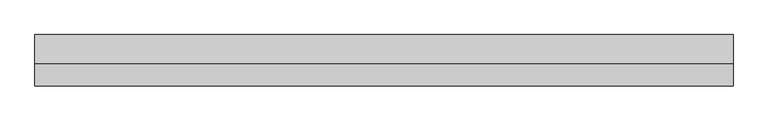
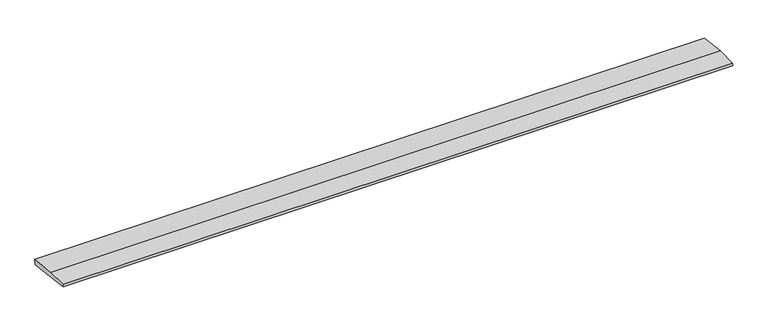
"""IFC4 building model written with IfcOpenShell, lengths in millimetres: beam geometry, weatherboad : weatherboad."""

import ifcopenshell
import ifcopenshell.guid

model = None  # the IFC model being written
_history = None  # IfcOwnerHistory: only IFC2X3 demands one
_inside = {}  # id of a spatial element -> (the spatial element, [elements in it])
_under = {}  # id of a project, library or spatial element -> (it, [spatial elements below it])
_declared = {}  # id of a project -> (the project, [libraries it declares])
_typed = {}  # id of a type object -> (the type object, [elements of that type])
_made_of = {}  # id of a material, layer set ... -> (it, [elements and type objects made of it])


def new_model(schema):
    """Start an empty IFC model of exactly this schema.

    Asked for "IFC4X3", IfcOpenShell would pick the latest addendum, in which some entities
    have other attributes; the version numbers below select the first issue.
    IFC2X3 requires an IfcOwnerHistory on every rooted entity: one is made here for all.
    """
    global model, _history
    if schema == "IFC4X3":
        model = ifcopenshell.file(schema_version=(4, 3, 0, 0))
    else:
        model = ifcopenshell.file(schema=schema)
    _inside.clear()
    _under.clear()
    _declared.clear()
    _typed.clear()
    _made_of.clear()
    _history = None
    if model.schema == "IFC2X3":
        org = make("IfcOrganization", Name="unknown")
        user = make(
            "IfcPersonAndOrganization",
            ThePerson=make("IfcPerson", FamilyName="unknown"),
            TheOrganization=org,
        )
        app = make(
            "IfcApplication",
            ApplicationDeveloper=org,
            Version="unknown",
            ApplicationFullName="unknown",
            ApplicationIdentifier="unknown",
        )
        _history = make(
            "IfcOwnerHistory",
            OwningUser=user,
            OwningApplication=app,
            ChangeAction="ADDED",
            CreationDate=0,
        )
    return model


def make(cls, **values):
    """One entity of the class cls with the attributes given. An attribute that is None is left unset."""
    return model.create_entity(
        cls, **{name: value for name, value in values.items() if value is not None}
    )


def rooted(cls, **values):
    """An entity with a GlobalId (a new one), such as an element, a storey or a relation."""
    return make(cls, GlobalId=ifcopenshell.guid.new(), OwnerHistory=_history, **values)


def si_unit(unit_type, name, prefix=None):
    """IfcSIUnit, for example si_unit("LENGTHUNIT", "METRE", prefix="MILLI")."""
    return make("IfcSIUnit", UnitType=unit_type, Prefix=prefix, Name=name)


def assignment(units):
    """IfcUnitAssignment: the units of a project."""
    return None if units is None else make("IfcUnitAssignment", Units=units)


def point(xyz):
    """IfcCartesianPoint."""
    return None if xyz is None else make("IfcCartesianPoint", Coordinates=xyz)


def direction(xyz):
    """IfcDirection."""
    return None if xyz is None else make("IfcDirection", DirectionRatios=xyz)


def frame(location, z_axis=None, x_axis=None):
    """IfcAxis2Placement3D, a coordinate frame: its origin and axes. An axis left out is left unset."""
    return make(
        "IfcAxis2Placement3D",
        Location=point(location),
        Axis=direction(z_axis),
        RefDirection=direction(x_axis),
    )


def origin():
    """The frame at (0, 0, 0) with its axes left unset."""
    return frame((0.0, 0.0, 0.0))


def place(relative_to, where):
    """IfcLocalPlacement: puts the frame where relative to a parent placement (None: the world)."""
    return make(
        "IfcLocalPlacement", PlacementRelTo=relative_to, RelativePlacement=where
    )


def context(
    kind, dimensions, precision=None, world=None, true_north=None, identifier=None
):
    """IfcGeometricRepresentationContext, for example the 3D "Model" context."""
    return make(
        "IfcGeometricRepresentationContext",
        ContextIdentifier=identifier,
        ContextType=kind,
        CoordinateSpaceDimension=dimensions,
        Precision=precision,
        WorldCoordinateSystem=world,
        TrueNorth=true_north,
    )


def project(units=None, contexts=None):
    """IfcProject with its units and contexts."""
    return rooted(
        "IfcProject",
        Name="project",
        RepresentationContexts=contexts,
        UnitsInContext=assignment(units),
    )


def spatial(cls, under=None, at=None, **own):
    """A site, building, storey or space (cls), placed at a placement, below another one or the project."""
    s = rooted(cls, ObjectPlacement=at, **own)
    if under is not None:
        _under.setdefault(under.id(), (under, []))[1].append(s)
    return s


def polyline(points):
    """IfcPolyline through the points."""
    return make("IfcPolyline", Points=[point(p) for p in points])


def outline(outer, holes=None, kind="AREA"):
    """IfcArbitraryClosedProfileDef: a profile drawn as a closed curve; with holes, ...WithVoids."""
    if holes is None:
        return make("IfcArbitraryClosedProfileDef", ProfileType=kind, OuterCurve=outer)
    return make(
        "IfcArbitraryProfileDefWithVoids",
        ProfileType=kind,
        OuterCurve=outer,
        InnerCurves=holes,
    )


def extrude(swept, where, along, depth):
    """IfcExtrudedAreaSolid: the profile swept, set in the frame where, extruded along a direction by depth."""
    return make(
        "IfcExtrudedAreaSolid",
        SweptArea=swept,
        Position=where,
        ExtrudedDirection=direction(along),
        Depth=depth,
    )


def shape(context_of_items, identifier, shape_type, items):
    """IfcShapeRepresentation: the items that make up one representation, for example the "Body"."""
    return make(
        "IfcShapeRepresentation",
        ContextOfItems=context_of_items,
        RepresentationIdentifier=identifier,
        RepresentationType=shape_type,
        Items=items,
    )


def source(mapping_origin, context_of_items, identifier, shape_type, items):
    """IfcRepresentationMap: a shape defined once, which mapped items show again and again."""
    return make(
        "IfcRepresentationMap",
        MappingOrigin=mapping_origin,
        MappedRepresentation=shape(context_of_items, identifier, shape_type, items),
    )


def transform(
    local_origin,
    x_axis=None,
    y_axis=None,
    z_axis=None,
    scale=None,
    scale2=None,
    scale3=None,
    uniform=True,
):
    """IfcCartesianTransformationOperator3D, or its non-uniform kind. x_axis, y_axis, z_axis: its Axis1, 2, 3."""
    if uniform:
        return make(
            "IfcCartesianTransformationOperator3D",
            Axis1=direction(x_axis),
            Axis2=direction(y_axis),
            LocalOrigin=point(local_origin),
            Scale=scale,
            Axis3=direction(z_axis),
        )
    return make(
        "IfcCartesianTransformationOperator3DnonUniform",
        Axis1=direction(x_axis),
        Axis2=direction(y_axis),
        LocalOrigin=point(local_origin),
        Scale=scale,
        Axis3=direction(z_axis),
        Scale2=scale2,
        Scale3=scale3,
    )


def mapped(mapping_source, mapping_target):
    """IfcMappedItem: shows the shape of a source again, moved by a transform."""
    return make(
        "IfcMappedItem", MappingSource=mapping_source, MappingTarget=mapping_target
    )


def made_of(thing, what):
    """Note that an element or type object is made of a material, layer set ...; save() writes the relation."""
    if what is not None:
        _made_of.setdefault(what.id(), (what, []))[1].append(thing)
    return thing


def element(
    cls,
    number,
    at=None,
    inside=None,
    cuts=None,
    type_object=None,
    material=None,
    context=None,
    identifier="Body",
    shape_type=None,
    held_by="IfcProductDefinitionShape",
    body=None,
    shapes=None,
    **own,
):
    """One element of the class cls, such as IfcWall. Its Tag is "e" and its number.

    at: its placement. inside: the storey or other place that contains it. cuts: it is an
    opening in that element (IfcRelVoidsElement). A single representation is given by context,
    identifier, shape_type and body (its items); several are given by shapes. held_by: the class
    of the entity that holds the representations. save() writes the other relations.
    """
    e = rooted(cls, Tag="e%d" % number, ObjectPlacement=at, **own)
    if body is not None:
        shapes = [shape(context, identifier, shape_type, body)]
    if shapes is not None:
        e.Representation = make(held_by, Representations=shapes)
    if inside is not None:
        _inside.setdefault(inside.id(), (inside, []))[1].append(e)
    if cuts is not None:
        rooted(
            "IfcRelVoidsElement", RelatingBuildingElement=cuts, RelatedOpeningElement=e
        )
    if type_object is not None:
        _typed.setdefault(type_object.id(), (type_object, []))[1].append(e)
    return made_of(e, material)


def aggregate(whole, parts):
    """IfcRelAggregates: a whole, such as a stair, and the parts it consists of."""
    return rooted("IfcRelAggregates", RelatingObject=whole, RelatedObjects=parts)


def save(model, path):
    """Write the relations noted so far, then the file.

    IfcRelAggregates (storeys below a building ...), IfcRelContainedInSpatialStructure (elements
    in a storey), IfcRelDefinesByType, IfcRelAssociatesMaterial and IfcRelDeclares: one each for
    every whole, place, type object, material and project.
    """
    for whole, parts in _under.values():
        aggregate(whole, parts)
    for where, things in _inside.values():
        rooted(
            "IfcRelContainedInSpatialStructure",
            RelatedElements=things,
            RelatingStructure=where,
        )
    for kind, things in _typed.values():
        rooted("IfcRelDefinesByType", RelatedObjects=things, RelatingType=kind)
    for what, things in _made_of.values():
        rooted("IfcRelAssociatesMaterial", RelatedObjects=things, RelatingMaterial=what)
    for by, libraries in _declared.values():
        rooted("IfcRelDeclares", RelatingContext=by, RelatedDefinitions=libraries)
    model.write(path)


def beam_45646a06(model_context):
    return source(origin(), model_context, "Body", "SweptSolid", [
        extrude(outline(polyline([(0.0, -9.143159), (1.1226388, 0.0), (79.0749747, 0.0), (180.9387048, -12.5072934), (178.6231873, -31.3656703), (0.0, -9.143159)])), frame((-1224.7302027, 0.0, 0.0), z_axis=(1.0, 0.0, 0.0), x_axis=(0.0, 1.0, 0.0)), (0.0, 0.0, 1.0), 2449.4604053),
    ])


if __name__ == "__main__":
    model = new_model("IFC4")
    model_context = context("Model", 3, world=origin())
    ifc_project = project(units=[si_unit("LENGTHUNIT", "METRE", prefix="MILLI")], contexts=[model_context])
    site = spatial("IfcSite", under=ifc_project)
    building = spatial("IfcBuilding", under=site)
    placement = place(None, origin())
    beam_shape = beam_45646a06(model_context)
    element("IfcBeam", 1, ObjectType="weatherboad : weatherboad", at=placement, inside=building, context=model_context, shape_type="MappedRepresentation", body=[
        mapped(beam_shape, transform((0.0, 0.0, 0.0), x_axis=(1.0, 0.0, 0.0), y_axis=(0.0, 1.0, 0.0), z_axis=(0.0, 0.0, 1.0))),
    ])
    save(model, "model.ifc")
